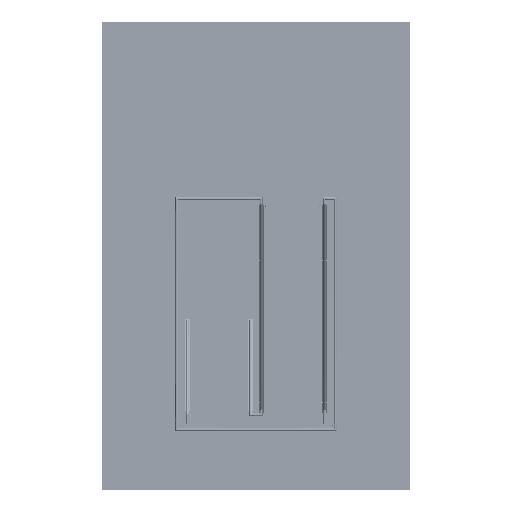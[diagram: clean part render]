
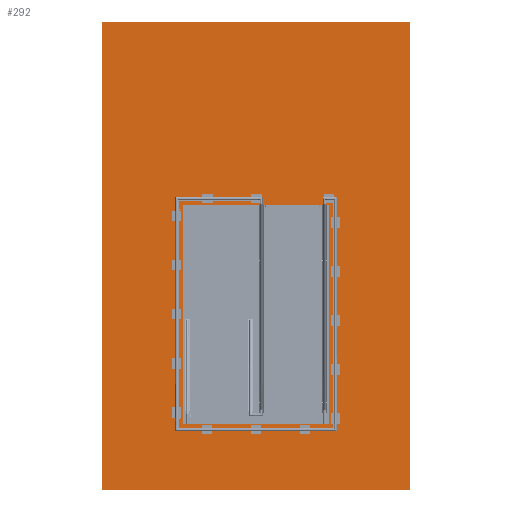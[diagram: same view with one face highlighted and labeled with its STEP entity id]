
A CAD part, top view. The second image highlights one B-rep face of the part: STEP entity #292.
In plain terms, the highlighted planar face has unit normal (0, 0, 1).
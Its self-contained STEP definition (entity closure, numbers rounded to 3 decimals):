
#32=CARTESIAN_POINT('',(7655.041,4066.9,3793.));
#33=VERTEX_POINT('',#32);
#34=CARTESIAN_POINT('',(5141.039,4066.9,3793.));
#35=VERTEX_POINT('',#34);
#36=CARTESIAN_POINT('',(7655.041,4066.9,3793.));
#37=DIRECTION('',(-1.,-0.,-0.));
#38=VECTOR('',#37,2514.002);
#39=LINE('',#36,#38);
#40=EDGE_CURVE('',#33,#35,#39,.T.);
#72=CARTESIAN_POINT('',(5141.039,7821.904,3793.));
#73=VERTEX_POINT('',#72);
#74=CARTESIAN_POINT('',(5141.039,4066.9,3793.));
#75=DIRECTION('',(-0.,1.,-0.));
#76=VECTOR('',#75,3755.004);
#77=LINE('',#74,#76);
#78=EDGE_CURVE('',#35,#73,#77,.T.);
#103=CARTESIAN_POINT('',(7655.041,7821.904,3793.));
#104=VERTEX_POINT('',#103);
#105=CARTESIAN_POINT('',(5141.039,7821.904,3793.));
#106=DIRECTION('',(1.,-0.,-0.));
#107=VECTOR('',#106,2514.002);
#108=LINE('',#105,#107);
#109=EDGE_CURVE('',#73,#104,#108,.T.);
#134=CARTESIAN_POINT('',(7655.041,7821.904,3793.));
#135=DIRECTION('',(0.,-1.,-0.));
#136=VECTOR('',#135,3755.004);
#137=LINE('',#134,#136);
#138=EDGE_CURVE('',#104,#33,#137,.T.);
#166=CARTESIAN_POINT('',(3765.262,10944.402,3793.));
#167=VERTEX_POINT('',#166);
#174=CARTESIAN_POINT('',(9030.819,10944.402,3793.));
#175=VERTEX_POINT('',#174);
#176=CARTESIAN_POINT('',(9030.819,10944.402,3793.));
#177=DIRECTION('',(-1.,0.,0.));
#178=VECTOR('',#177,5265.557);
#179=LINE('',#176,#178);
#180=EDGE_CURVE('',#175,#167,#179,.T.);
#205=CARTESIAN_POINT('',(9030.819,2944.402,3793.));
#206=VERTEX_POINT('',#205);
#207=CARTESIAN_POINT('',(9030.819,2944.402,3793.));
#208=DIRECTION('',(-0.,1.,0.));
#209=VECTOR('',#208,8000.);
#210=LINE('',#207,#209);
#211=EDGE_CURVE('',#206,#175,#210,.T.);
#236=CARTESIAN_POINT('',(3765.262,2944.402,3793.));
#237=VERTEX_POINT('',#236);
#238=CARTESIAN_POINT('',(3765.262,2944.402,3793.));
#239=DIRECTION('',(1.,0.,0.));
#240=VECTOR('',#239,5265.557);
#241=LINE('',#238,#240);
#242=EDGE_CURVE('',#237,#206,#241,.T.);
#265=CARTESIAN_POINT('',(3765.262,10944.402,3793.));
#266=DIRECTION('',(0.,-1.,0.));
#267=VECTOR('',#266,8000.);
#268=LINE('',#265,#267);
#269=EDGE_CURVE('',#167,#237,#268,.T.);
#275=CARTESIAN_POINT('',(6398.04,6944.402,3793.));
#276=DIRECTION('',(0.,0.,1.));
#277=DIRECTION('',(1.,0.,0.));
#278=AXIS2_PLACEMENT_3D('',#275,#276,#277);
#279=PLANE('',#278);
#280=ORIENTED_EDGE('',*,*,#109,.T.);
#281=ORIENTED_EDGE('',*,*,#138,.T.);
#282=ORIENTED_EDGE('',*,*,#40,.T.);
#283=ORIENTED_EDGE('',*,*,#78,.T.);
#284=EDGE_LOOP('',(#280,#281,#282,#283));
#285=FACE_BOUND('',#284,.T.);
#286=ORIENTED_EDGE('',*,*,#269,.T.);
#287=ORIENTED_EDGE('',*,*,#242,.T.);
#288=ORIENTED_EDGE('',*,*,#211,.T.);
#289=ORIENTED_EDGE('',*,*,#180,.T.);
#290=EDGE_LOOP('',(#286,#287,#288,#289));
#291=FACE_BOUND('',#290,.T.);
#292=ADVANCED_FACE('',(#285,#291),#279,.T.);
